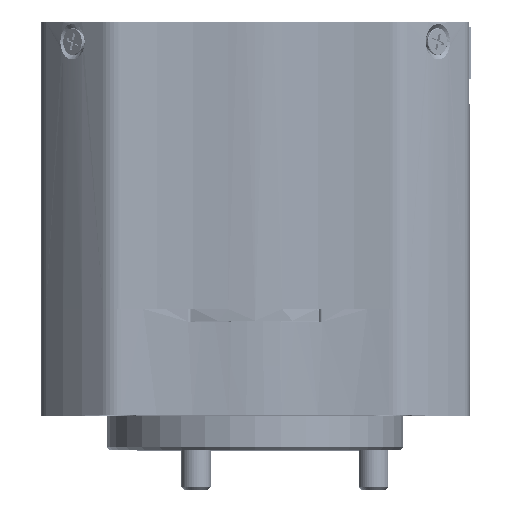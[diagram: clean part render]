
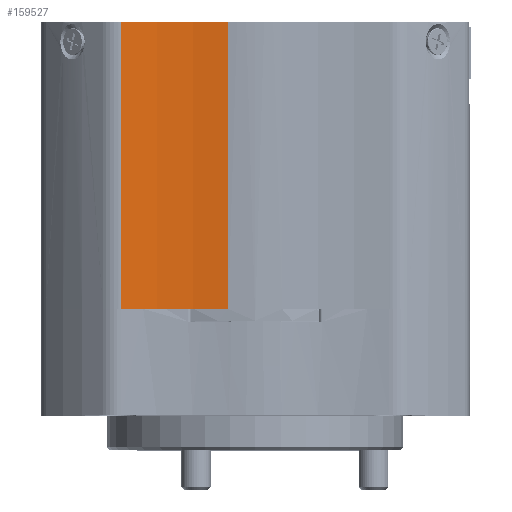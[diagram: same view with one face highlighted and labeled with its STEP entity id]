
A CAD part, top view. The second image highlights one B-rep face of the part: STEP entity #159527.
In plain terms, the highlighted cylindrical face has radius 40 mm (diameter 80 mm), a partial arc.
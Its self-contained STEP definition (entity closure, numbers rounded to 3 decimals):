
#49100 = CYLINDRICAL_SURFACE ( 'NONE', #72582, 40. ) ;
#72582 = AXIS2_PLACEMENT_3D ( 'NONE', #452348, #76051, #187838 ) ;
#76051 = DIRECTION ( 'NONE',  ( 0., 1., 0. ) ) ;
#80195 = CARTESIAN_POINT ( 'NONE',  ( -2.735, 29.1, 21.577 ) ) ;
#85582 = FACE_OUTER_BOUND ( 'NONE', #147531, .T. ) ;
#86641 = LINE ( 'NONE', #348765, #421046 ) ;
#86981 = EDGE_CURVE ( 'NONE', #426061, #340623, #477529, .T. ) ;
#92265 = ORIENTED_EDGE ( 'NONE', *, *, #103313, .F. ) ;
#103313 = EDGE_CURVE ( 'NONE', #340623, #244777, #256253, .T. ) ;
#106805 = ORIENTED_EDGE ( 'NONE', *, *, #272987, .T. ) ;
#144892 = CARTESIAN_POINT ( 'NONE',  ( -13.595, -1.2, 21.687 ) ) ;
#147531 = EDGE_LOOP ( 'NONE', ( #348035, #106805, #92265, #428620 ) ) ;
#159527 = ADVANCED_FACE ( 'NONE', ( #85582 ), #49100, .F. ) ;
#162676 = CARTESIAN_POINT ( 'NONE',  ( -2.735, 0., 21.577 ) ) ;
#187546 = CARTESIAN_POINT ( 'NONE',  ( -13.595, 29.1, 21.687 ) ) ;
#187838 = DIRECTION ( 'NONE',  ( 0., 0., 1. ) ) ;
#244777 = VERTEX_POINT ( 'NONE', #80195 ) ;
#250656 = EDGE_CURVE ( 'NONE', #426061, #291754, #376940, .T. ) ;
#256253 = CIRCLE ( 'NONE', #310514, 40. ) ;
#265185 = VECTOR ( 'NONE', #292987, 1000. ) ;
#272987 = EDGE_CURVE ( 'NONE', #291754, #244777, #86641, .T. ) ;
#274665 = CARTESIAN_POINT ( 'NONE',  ( -7.764, 0., 61.26 ) ) ;
#279473 = DIRECTION ( 'NONE',  ( 0., -1., 0. ) ) ;
#291754 = VERTEX_POINT ( 'NONE', #162676 ) ;
#292987 = DIRECTION ( 'NONE',  ( 0., 1., 0. ) ) ;
#310104 = DIRECTION ( 'NONE',  ( 0., 0., 1. ) ) ;
#310514 = AXIS2_PLACEMENT_3D ( 'NONE', #314863, #453491, #310104 ) ;
#314863 = CARTESIAN_POINT ( 'NONE',  ( -7.764, 29.1, 61.26 ) ) ;
#340623 = VERTEX_POINT ( 'NONE', #187546 ) ;
#348035 = ORIENTED_EDGE ( 'NONE', *, *, #250656, .T. ) ;
#348765 = CARTESIAN_POINT ( 'NONE',  ( -2.735, -1.2, 21.577 ) ) ;
#368902 = AXIS2_PLACEMENT_3D ( 'NONE', #274665, #279473, #459214 ) ;
#373449 = CARTESIAN_POINT ( 'NONE',  ( -13.595, 0., 21.687 ) ) ;
#376940 = CIRCLE ( 'NONE', #368902, 40. ) ;
#390030 = DIRECTION ( 'NONE',  ( 0., 1., 0. ) ) ;
#421046 = VECTOR ( 'NONE', #390030, 1000. ) ;
#426061 = VERTEX_POINT ( 'NONE', #373449 ) ;
#428620 = ORIENTED_EDGE ( 'NONE', *, *, #86981, .F. ) ;
#452348 = CARTESIAN_POINT ( 'NONE',  ( -7.764, -1.2, 61.26 ) ) ;
#453491 = DIRECTION ( 'NONE',  ( 0., -1., 0. ) ) ;
#459214 = DIRECTION ( 'NONE',  ( 0., 0., 1. ) ) ;
#477529 = LINE ( 'NONE', #144892, #265185 ) ;
